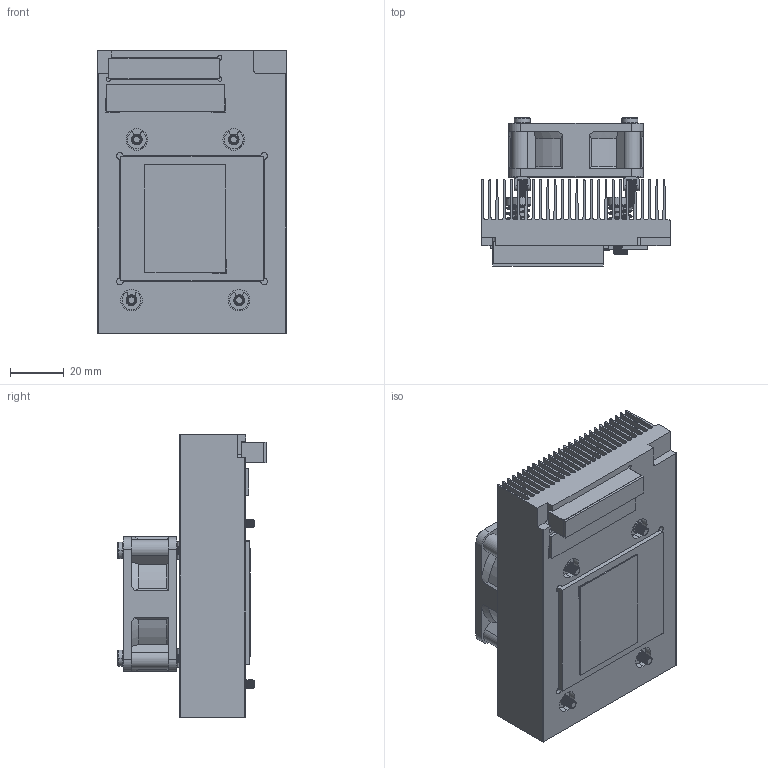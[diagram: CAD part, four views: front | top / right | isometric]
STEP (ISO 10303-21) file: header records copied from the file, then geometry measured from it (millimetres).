
FILE_DESCRIPTION((''),'2;1');
FILE_NAME('E1961121350010R_ASM','2025-06-05T16:09:13',('isaac_lin'),(''),'CREO PARAMETRIC BY PTC INC, 2024273','CREO PARAMETRIC BY PTC INC, 2024273','');
FILE_SCHEMA(('CONFIG_CONTROL_DESIGN'));
Length unit declared in the file: millimetre
Products named in the file (15): E1961121350-70X24_5; CU-FOR-CPU-SINK; PSX_40X30X0-4T; FAN-5020_4_1_1_1_1; FAN-5020_4_2_1_1_1; FAN-5020_4_ASM_1_ASM_1_ASM_1_ASM; SCREW_D3_1_1_1; E2101-21A_FAN_BRAC0001; E-RING-M3_4_1_1_1; SCREW-M3_4_1_1_1; SPRING-M2_5-1_32LB-2-F13_1_1_1_; SINK-AL; BS75K-44X10XT1_25; BS75K-41X7_5XT1_0; E1961121350010R_ASM
Assembly tree (29 placements, depth 3):
  E1961121350010R_ASM
    E1961121350-70X24_5
    CU-FOR-CPU-SINK
    PSX_40X30X0-4T
    FAN-5020_4_ASM_1_ASM_1_ASM_1_ASM
      FAN-5020_4_1_1_1_1
      FAN-5020_4_2_1_1_1
    SCREW_D3_1_1_1  x4
    E2101-21A_FAN_BRAC0001  x4
    E-RING-M3_4_1_1_1  x4
    SCREW-M3_4_1_1_1  x4
    SPRING-M2_5-1_32LB-2-F13_1_1_1_  x4
    SINK-AL
    BS75K-44X10XT1_25
    BS75K-41X7_5XT1_0
Bounding box: 70 x 55.2 x 105 mm (x, y, z)
Volume: 117139.4 mm3; surface area: 128400.2 mm2
Topology: 28 solids, 28 shells, 1482 faces, 5294 edges, 3933 vertices
Faces by surface type: cylinder 670, plane 568, bspline 146, cone 56, torus 42
Entity records: 47430 total; most frequent: CARTESIAN_POINT 19618, DIRECTION 5438, ORIENTED_EDGE 4902, EDGE_CURVE 2451, VECTOR 2290, LINE 2290, VERTEX_POINT 1653, AXIS2_PLACEMENT_3D 1574
